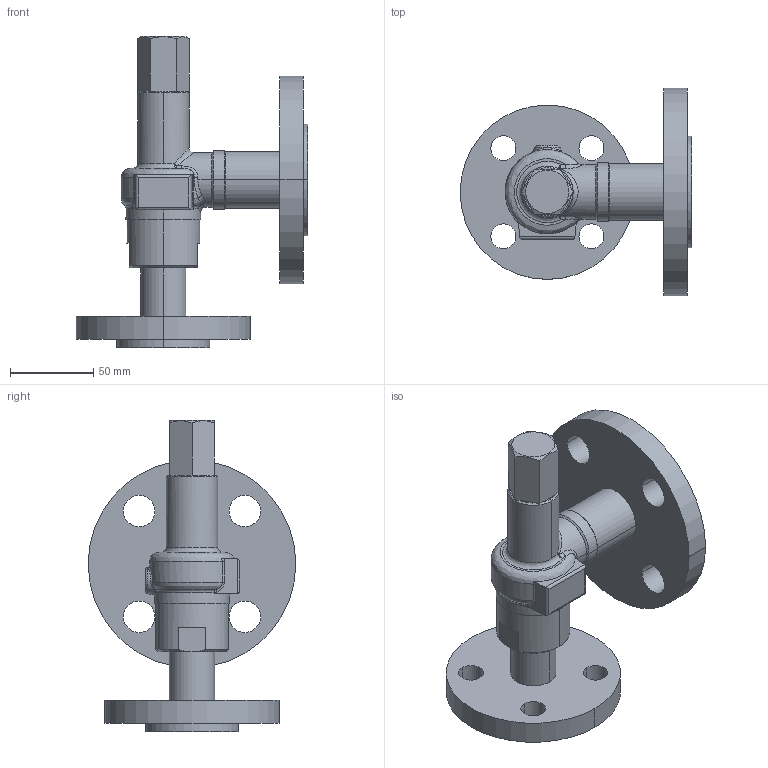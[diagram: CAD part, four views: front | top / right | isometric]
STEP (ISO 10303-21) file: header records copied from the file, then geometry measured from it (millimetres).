
FILE_DESCRIPTION( (''), '2;1');
FILE_NAME ('PC1027.9568.AL-32 20A_3663.stp','2025-07-28T13:17:22',(''),(''),'spGate 19.8.4 (****-****-****-****)','','');
FILE_SCHEMA (('AUTOMOTIVE_DESIGN'));
Length unit declared in the file: millimetre
Products named in the file (2): Assembly; AL-32 20A-3D
Assembly tree (1 placements, depth 2):
  Assembly
    AL-32 20A-3D
Bounding box: 139.5 x 125 x 187.5 mm (x, y, z)
Volume: 476690.7 mm3; surface area: 86643.8 mm2
Topology: 1 solids, 1 shells, 140 faces, 337 edges, 207 vertices
Faces by surface type: cylinder 54, bspline 42, plane 40, sphere 4
Entity records: 8538 total; most frequent: CARTESIAN_POINT 2809, ORIENTED_EDGE 674, DIRECTION 574, COLOUR_RGB 478, PRESENTATION_STYLE_ASSIGNMENT 478, STYLED_ITEM 478, EDGE_CURVE 337, DRAUGHTING_PRE_DEFINED_CURVE_FONT 337
